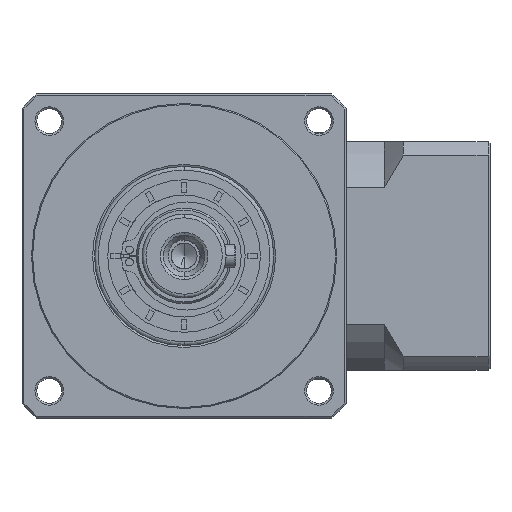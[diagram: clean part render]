
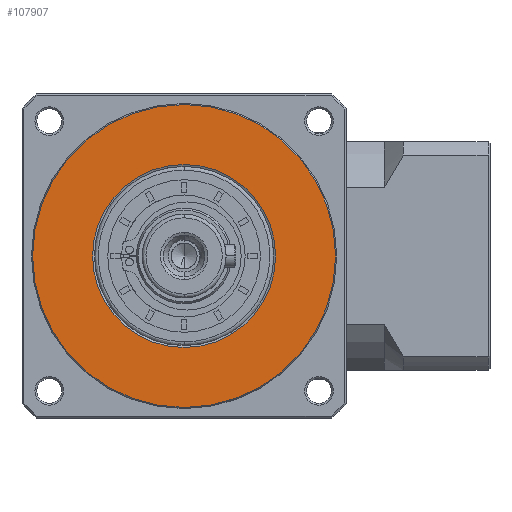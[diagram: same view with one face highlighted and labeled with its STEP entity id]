
A CAD part, left-side view. The second image highlights one B-rep face of the part: STEP entity #107907.
In plain terms, the highlighted planar face has unit normal (-1, 0, 0).
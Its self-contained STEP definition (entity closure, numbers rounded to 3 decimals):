
#3433 = CIRCLE ( 'NONE', #80720, 24. ) ;
#4840 = CARTESIAN_POINT ( 'NONE',  ( -39.712, 90.044, -29.04 ) ) ;
#11529 = CARTESIAN_POINT ( 'NONE',  ( -39.712, 90.044, 18.96 ) ) ;
#15432 = DIRECTION ( 'NONE',  ( 1., 0., 0. ) ) ;
#17842 = VERTEX_POINT ( 'NONE', #57192 ) ;
#18293 = DIRECTION ( 'NONE',  ( -1., 0., 0. ) ) ;
#24760 = CARTESIAN_POINT ( 'NONE',  ( -39.712, 90.044, -5.04 ) ) ;
#25734 = CIRCLE ( 'NONE', #94705, 39.711 ) ;
#31120 = CIRCLE ( 'NONE', #161652, 39.711 ) ;
#38364 = DIRECTION ( 'NONE',  ( 0., 1., 0. ) ) ;
#50259 = DIRECTION ( 'NONE',  ( 1., 0., 0. ) ) ;
#52445 = CARTESIAN_POINT ( 'NONE',  ( -39.712, 90.044, -5.04 ) ) ;
#52935 = VERTEX_POINT ( 'NONE', #4840 ) ;
#57192 = CARTESIAN_POINT ( 'NONE',  ( -39.712, 50.333, -5.04 ) ) ;
#62974 = EDGE_LOOP ( 'NONE', ( #129755, #133740 ) ) ;
#66070 = DIRECTION ( 'NONE',  ( 0., 0., -1. ) ) ;
#70207 = AXIS2_PLACEMENT_3D ( 'NONE', #99661, #18293, #113315 ) ;
#78231 = CARTESIAN_POINT ( 'NONE',  ( -39.712, 129.755, -5.04 ) ) ;
#80720 = AXIS2_PLACEMENT_3D ( 'NONE', #131582, #50259, #145282 ) ;
#90346 = ORIENTED_EDGE ( 'NONE', *, *, #142562, .T. ) ;
#94705 = AXIS2_PLACEMENT_3D ( 'NONE', #96812, #15432, #110468 ) ;
#96812 = CARTESIAN_POINT ( 'NONE',  ( -39.712, 90.044, -5.04 ) ) ;
#97018 = VERTEX_POINT ( 'NONE', #11529 ) ;
#98231 = EDGE_CURVE ( 'NONE', #17842, #145653, #31120, .T. ) ;
#98731 = ORIENTED_EDGE ( 'NONE', *, *, #152361, .T. ) ;
#99661 = CARTESIAN_POINT ( 'NONE',  ( -39.712, 90.044, -5.04 ) ) ;
#103004 = AXIS2_PLACEMENT_3D ( 'NONE', #52445, #147442, #66070 ) ;
#107907 = ADVANCED_FACE ( 'NONE', ( #108651, #144790 ), #126410, .T. ) ;
#108651 = FACE_OUTER_BOUND ( 'NONE', #62974, .T. ) ;
#110468 = DIRECTION ( 'NONE',  ( 0., 1., 0. ) ) ;
#113315 = DIRECTION ( 'NONE',  ( 0., 0., -1. ) ) ;
#119794 = DIRECTION ( 'NONE',  ( 1., 0., 0. ) ) ;
#126410 = PLANE ( 'NONE',  #70207 ) ;
#129755 = ORIENTED_EDGE ( 'NONE', *, *, #144657, .F. ) ;
#131582 = CARTESIAN_POINT ( 'NONE',  ( -39.712, 90.044, -5.04 ) ) ;
#133740 = ORIENTED_EDGE ( 'NONE', *, *, #98231, .F. ) ;
#134169 = EDGE_LOOP ( 'NONE', ( #98731, #90346 ) ) ;
#142562 = EDGE_CURVE ( 'NONE', #97018, #52935, #3433, .T. ) ;
#144657 = EDGE_CURVE ( 'NONE', #145653, #17842, #25734, .T. ) ;
#144790 = FACE_BOUND ( 'NONE', #134169, .T. ) ;
#145282 = DIRECTION ( 'NONE',  ( 0., 0., -1. ) ) ;
#145653 = VERTEX_POINT ( 'NONE', #78231 ) ;
#147442 = DIRECTION ( 'NONE',  ( 1., 0., 0. ) ) ;
#152361 = EDGE_CURVE ( 'NONE', #52935, #97018, #159433, .T. ) ;
#159433 = CIRCLE ( 'NONE', #103004, 24. ) ;
#161652 = AXIS2_PLACEMENT_3D ( 'NONE', #24760, #119794, #38364 ) ;
